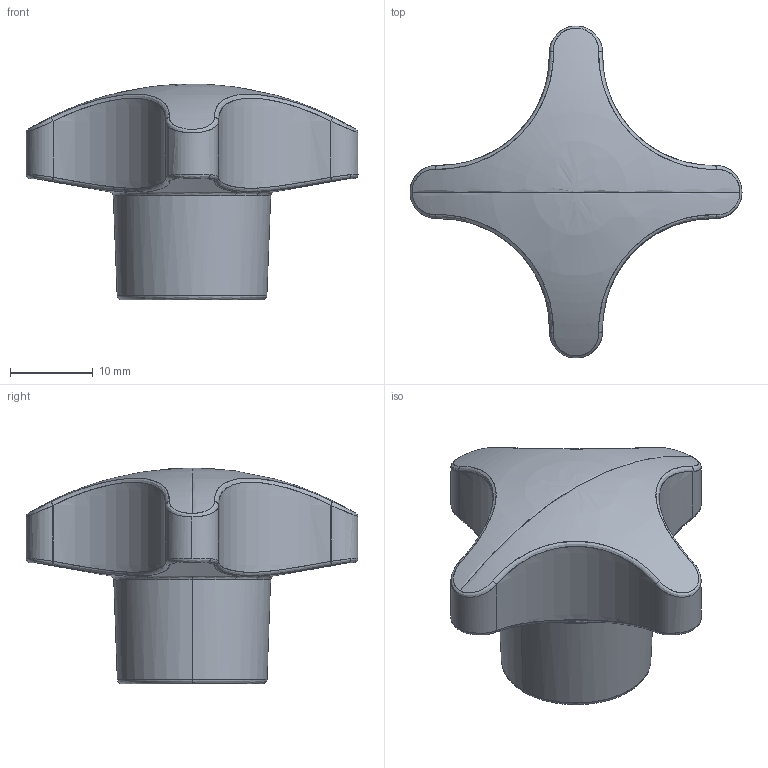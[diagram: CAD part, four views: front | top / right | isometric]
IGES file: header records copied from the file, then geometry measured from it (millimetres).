
Start section: SolidWorks IGES file using analytic representation for surfaces
Global section: file name: C:\Users\Marc\Documents\2 ENGINYERIA\Catalogo 3D\IGS STEP DXF\1121 40 302.IGS; native system: SolidWorks 2010; preprocessor: SolidWorks 2010; author: Marc; date: 101126.164531; units: millimetre
Bounding box: 40 x 40 x 26 mm (x, y, z)
Surface area: 4587.8 mm2 (no closed solid volume)
Topology: 0 solids, 0 shells, 78 faces, 981 edges, 978 vertices
Faces by surface type: bspline 44, revolution 34
